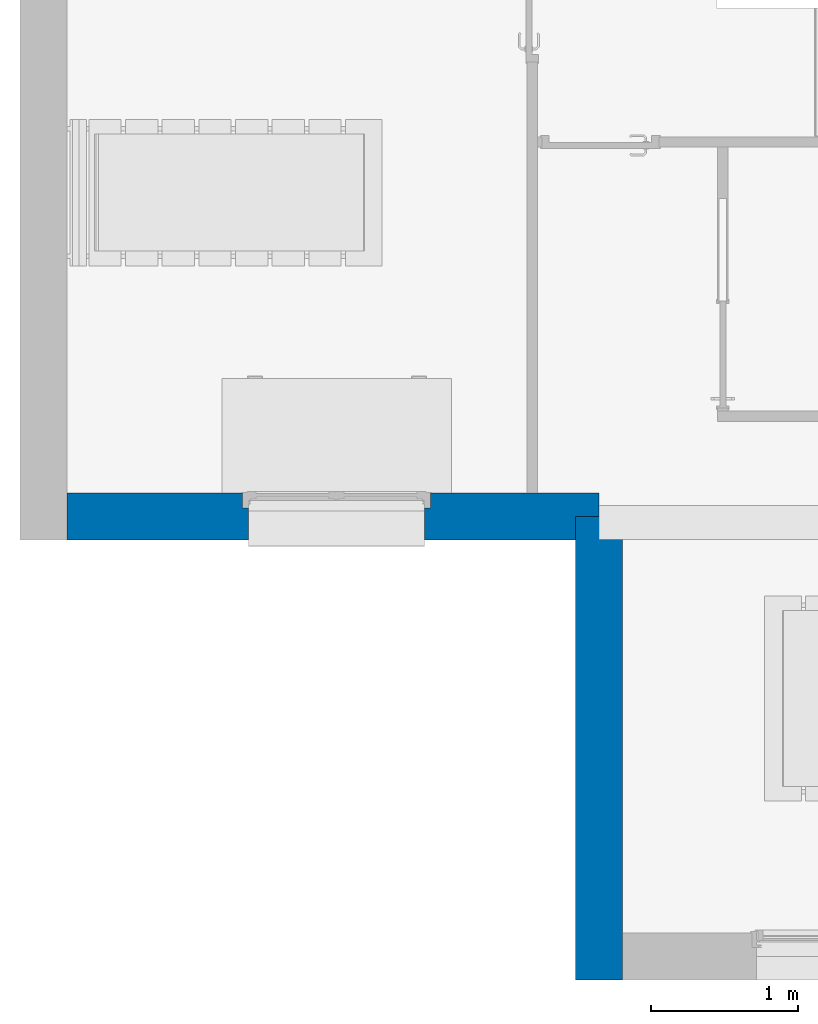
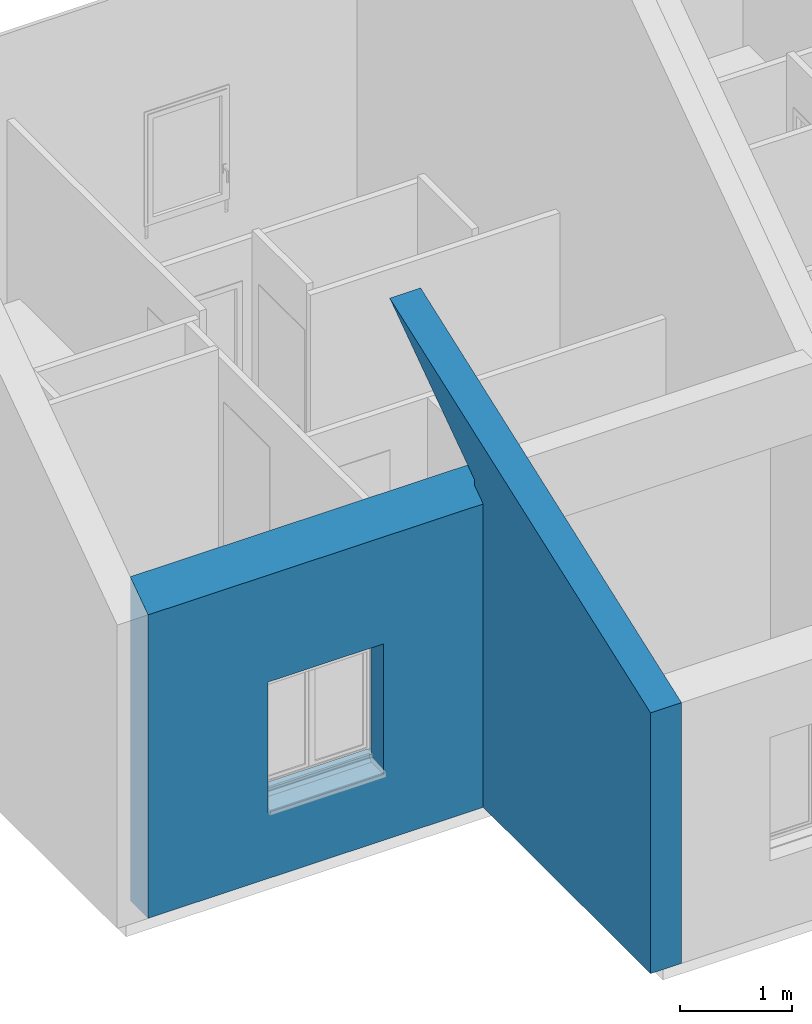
# One storey, part 8 of 61: 2 walls, 2 openings.
"""IFC2X3 building model written with IfcOpenShell, lengths in metres."""

from ifc_helpers import new_model, entity, si_unit, converted_unit, derived_unit, direction, frame, frame_2d, origin, place, context, subcontext, project, spatial, polyline, rectangle, outline, extrude, clip, halfspace, bounded_halfspace, faceted_brep, material, layer, layer_set, layer_usage, type_object, element, save


model = new_model("IFC2X3")

# Units and contexts
model_context = context("Model", 3, precision=1e-05, world=origin(), true_north=direction((6.12303176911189e-17, 1.0)))
body_context = subcontext(model_context, "Body", "Model", "MODEL_VIEW")
ifc_project = project(units=[si_unit("LENGTHUNIT", "METRE"), si_unit("AREAUNIT", "SQUARE_METRE"), si_unit("VOLUMEUNIT", "CUBIC_METRE"), converted_unit("PLANEANGLEUNIT", "DEGREE", entity("IfcRatioMeasure", 0.0174532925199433), si_unit("PLANEANGLEUNIT", "RADIAN"), dimensions=[0, 0, 0, 0, 0, 0, 0]), si_unit("MASSUNIT", "GRAM", prefix="KILO"), derived_unit("MASSDENSITYUNIT", [(si_unit("MASSUNIT", "GRAM", prefix="KILO"), 1), (si_unit("LENGTHUNIT", "METRE"), -3)]), si_unit("TIMEUNIT", "SECOND"), si_unit("FREQUENCYUNIT", "HERTZ"), si_unit("THERMODYNAMICTEMPERATUREUNIT", "DEGREE_CELSIUS"), derived_unit("THERMALTRANSMITTANCEUNIT", [(si_unit("MASSUNIT", "GRAM", prefix="KILO"), 1), (si_unit("THERMODYNAMICTEMPERATUREUNIT", "KELVIN"), -1), (si_unit("TIMEUNIT", "SECOND"), -3)]), derived_unit("VOLUMETRICFLOWRATEUNIT", [(si_unit("LENGTHUNIT", "METRE"), 3), (si_unit("TIMEUNIT", "SECOND"), -1)]), si_unit("ELECTRICCURRENTUNIT", "AMPERE"), si_unit("ELECTRICVOLTAGEUNIT", "VOLT"), si_unit("POWERUNIT", "WATT"), si_unit("FORCEUNIT", "NEWTON", prefix="KILO"), si_unit("ILLUMINANCEUNIT", "LUX"), si_unit("LUMINOUSFLUXUNIT", "LUMEN"), si_unit("LUMINOUSINTENSITYUNIT", "CANDELA"), derived_unit("USERDEFINED", [(si_unit("MASSUNIT", "GRAM", prefix="KILO"), -1), (si_unit("LENGTHUNIT", "METRE"), -2), (si_unit("TIMEUNIT", "SECOND"), 3), (si_unit("LUMINOUSFLUXUNIT", "LUMEN"), 1)]), derived_unit("LINEARVELOCITYUNIT", [(si_unit("LENGTHUNIT", "METRE"), 1), (si_unit("TIMEUNIT", "SECOND"), -1)]), si_unit("PRESSUREUNIT", "PASCAL"), derived_unit("USERDEFINED", [(si_unit("LENGTHUNIT", "METRE"), -2), (si_unit("MASSUNIT", "GRAM", prefix="KILO"), 1), (si_unit("TIMEUNIT", "SECOND"), -2)])], contexts=[model_context])

# Site, building, storey
site_placement = place(None, origin())
site = spatial("IfcSite", under=ifc_project, at=site_placement, Name="Surface", CompositionType="ELEMENT")
building_placement = place(site_placement, origin())
building = spatial("IfcBuilding", under=site, at=building_placement, CompositionType="ELEMENT")
storey_placement = place(building_placement, frame((0.0, 0.0, 2.82)))
storey = spatial("IfcBuildingStorey", under=building, at=storey_placement, Name="ETAGE", CompositionType="ELEMENT", Elevation=2.82)

# Wall, opening
ifc_material_1 = material(Name="Enduit blanc cassé2")
ifc_layer_1 = layer(ifc_material_1, 0.02)
ifc_material_2 = material(Name="Parpaing")
ifc_layer_2 = layer(ifc_material_2, 0.2)
ifc_material_3 = material(Name="Isolant")
ifc_layer_3 = layer(ifc_material_3, 0.1)
ifc_layer_set_1 = layer_set([ifc_layer_1, ifc_layer_2, ifc_layer_3], Name="Mur de base:Ext. Parpaing 20 + Isolant 10 enduit blanc cassé")
ifc_layer_usage_1 = layer_usage(ifc_layer_set_1, "AXIS2", "POSITIVE", -0.16)
wall_type_1 = type_object("IfcWallType", Name="Mur de base:Ext. Parpaing 20 + Isolant 10 enduit blanc cassé", PredefinedType="STANDARD", material=ifc_layer_set_1)
wall_1_placement = place(storey_placement, frame((61.7063634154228, 80.0477566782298, 0.0)))
wall_1 = element("IfcWallStandardCase", 1, at=wall_1_placement, inside=storey, type_object=wall_type_1, material=ifc_layer_usage_1, Name="Mur de base:Ext. Parpaing 20 + Isolant 10 enduit blanc cassé", ObjectType="Mur de base:Ext. Parpaing 20 + Isolant 10 enduit blanc cassé", context=body_context, shape_type="Clipping", body=[
    clip(extrude(rectangle(XDim=3.62826294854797, YDim=0.319999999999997, at=frame_2d((1.81413147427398, -2.2065682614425e-15), x_axis=(-1.0, 0.0))), origin(), (0.0, 0.0, 1.0), 3.54406641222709), bounded_halfspace(frame((0.0, -0.159999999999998, 3.31999999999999), z_axis=(0.0, -0.573576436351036, 0.819152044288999), x_axis=(1.0, 0.0, 0.0)), False, frame((0.0, -0.159999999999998, 3.31999999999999)), polyline([(0.0, 0.0), (3.62826294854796, 0.0), (3.62826294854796, 0.319999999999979), (0.0, 0.319999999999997), (0.0, 0.0)]))),
])
opening_1_placement = place(wall_1_placement, frame((1.18826294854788, -0.499999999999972, 0.719999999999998)))
element("IfcOpeningElement", 2, at=opening_1_placement, cuts=wall_1, Name="Mur de base:Ext. Parpaing 20 + Isolant 10 enduit blanc cassé", ObjectType="Opening", context=body_context, shape_type="Brep", body=[
    faceted_brep([(1.24999999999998, 1.0, 1.43), (1.24999999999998, 1.0, 0.0800000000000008), (0.0499999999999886, 1.0, 0.0800000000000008), (0.0499999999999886, 1.0, 1.43), (1.25000000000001, 0.0, 1.43), (0.0500000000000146, 0.0, 1.43), (0.0500000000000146, 0.0, 0.0800000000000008), (1.25000000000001, 0.0, 0.0800000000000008), (0.0499999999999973, 0.672999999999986, 1.43), (1.25, 0.672999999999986, 1.43), (0.0499999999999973, 0.673000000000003, 0.0800000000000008), (1.24999999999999, 0.673000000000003, 0.0800000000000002), (1.28999999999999, 0.673000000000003, 0.0800000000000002), (1.28999999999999, 0.560000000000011, 0.0800000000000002), (1.24999999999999, 0.560000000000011, 0.0800000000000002), (1.24999999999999, 0.594999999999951, 0.0800000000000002), (0.0499999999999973, 0.594999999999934, 0.0800000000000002), (0.0499999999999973, 0.559999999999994, 0.0800000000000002), (0.00999999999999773, 0.559999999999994, 0.0800000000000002), (0.00999999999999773, 0.673000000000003, 0.0800000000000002), (0.00999999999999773, 0.672999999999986, 1.47), (1.29, 0.672999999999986, 1.47), (0.00999999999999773, 0.559999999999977, 1.47), (0.0499999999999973, 0.559999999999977, 1.43), (1.25, 0.559999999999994, 1.43), (1.28999999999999, 0.559999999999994, 1.47), (1.3, 0.559999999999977, 1.47), (1.3, 0.560000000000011, 1.65), (0.0, 0.559999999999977, 1.65), (0.0, 0.559999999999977, 1.47), (0.0, 0.692999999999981, 1.65), (0.0, 0.692999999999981, 1.47), (1.3, 0.692999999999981, 1.65), (1.3, 0.692999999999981, 1.47), (0.0499999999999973, 0.559999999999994, 0.0), (0.0499999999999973, 0.594999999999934, 0.0349999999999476), (1.25, 0.594999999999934, 0.0349999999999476), (1.24999999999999, 0.560000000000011, 0.0), (0.0499999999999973, 0.294999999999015, 0.0800000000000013), (0.0499999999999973, 0.294999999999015, 0.0), (1.25, 0.294999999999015, 0.0), (1.25, 0.294999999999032, 0.0800000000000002)], [[[0, 1, 2, 3]], [[4, 5, 6, 7]], [[0, 3, 8, 9]], [[3, 2, 10, 8]], [[2, 1, 11, 12, 13, 14, 15, 16, 17, 18, 19, 10]], [[1, 0, 9, 11]], [[10, 19, 20, 21, 12, 11, 9, 8]], [[19, 18, 22, 20]], [[18, 17, 23, 24, 14, 13, 25, 26, 27, 28, 29, 22]], [[12, 21, 25, 13]], [[30, 31, 29, 28]], [[32, 27, 26, 33]], [[30, 28, 27, 32]], [[29, 31, 33, 26, 25, 21, 20, 22]], [[31, 30, 32, 33]], [[34, 35, 36, 37]], [[35, 16, 15, 36]], [[38, 39, 40, 41]], [[39, 34, 37, 40]], [[4, 7, 41, 40, 37, 36, 15, 14, 24]], [[7, 6, 38, 41]], [[6, 5, 23, 17, 16, 35, 34, 39, 38]], [[5, 4, 24, 23]]]),
])

ifc_material_4 = material(Name="Enduit  gris")
ifc_layer_4 = layer(ifc_material_4, 0.02)
ifc_layer_5 = layer(ifc_material_2, 0.2)
ifc_layer_6 = layer(ifc_material_3, 0.1)
ifc_layer_set_2 = layer_set([ifc_layer_4, ifc_layer_5, ifc_layer_6], Name="Mur de base:Ext. Parpaing 20 + Isolant 10 enduit gris")
ifc_layer_usage_2 = layer_usage(ifc_layer_set_2, "AXIS2", "POSITIVE", -0.16)
wall_type_2 = type_object("IfcWallType", Name="Mur de base:Ext. Parpaing 20 + Isolant 10 enduit gris", PredefinedType="STANDARD", material=ifc_layer_set_2)
wall_2_placement = place(storey_placement, frame((65.3346263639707, 81.5641501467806, 0.0), z_axis=(0.0, 0.0, 1.0), x_axis=(0.0, -1.0, 0.0)))
wall_2 = element("IfcWallStandardCase", 3, at=wall_2_placement, inside=storey, type_object=wall_type_2, material=ifc_layer_usage_2, Name="Mur de base:Ext. Parpaing 20 + Isolant 10 enduit gris", ObjectType="Mur de base:Ext. Parpaing 20 + Isolant 10 enduit gris", context=body_context, shape_type="Clipping", body=[
    clip(clip(extrude(rectangle(XDim=4.67639346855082, YDim=0.319999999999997, at=frame_2d((2.33819673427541, 1.92901250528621e-15), x_axis=(-1.0, 0.0))), origin(), (0.0, 0.0, 1.0), 4.55486207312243), halfspace(frame((0.0, -0.159999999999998, 4.55486207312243), z_axis=(0.342020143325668, 0.0, 0.939692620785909), x_axis=(0.0, 1.0, 0.0)), False)), halfspace(frame((0.0, 0.0, 4.55486207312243), z_axis=(-0.94880158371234, 0.0, -0.31587268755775), x_axis=(0.0, 1.0, 0.0)), False)),
])
opening_2_placement = place(wall_2_placement, origin())
element("IfcOpeningElement", 4, at=opening_2_placement, cuts=wall_2, Name="Mur de base:Ext. Parpaing 20 + Isolant 10 enduit gris", ObjectType="Opening", context=body_context, shape_type="SweptSolid", body=[
    extrude(outline(polyline([(-2.09568769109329, -0.367788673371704), (2.70495993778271, -0.367788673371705), (-0.60927224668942, 0.73557734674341), (-2.09568769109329, -0.367788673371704)])), frame((1.01092897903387, 0.159999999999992, 2.68264466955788), z_axis=(0.0, -1.0, 0.0), x_axis=(0.31587268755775, 0.0, -0.94880158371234)), (0.0, 0.0, 1.0), 0.32),
])

save(model, "model.ifc")
